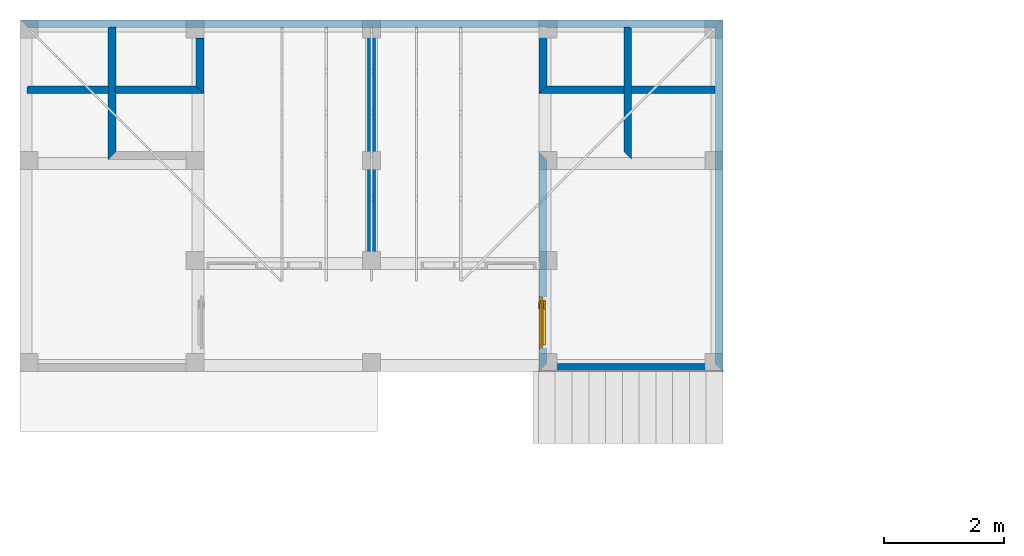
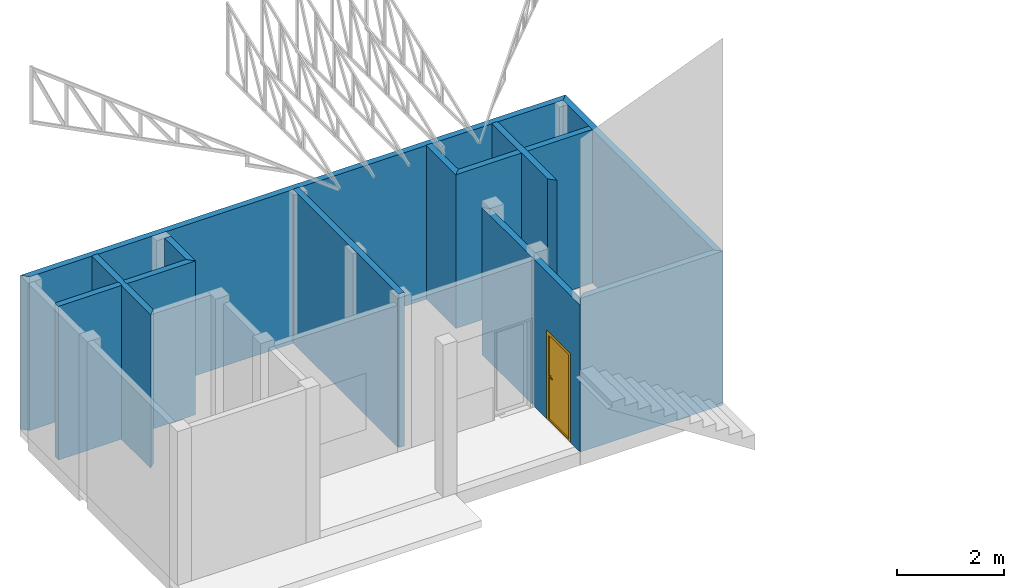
# One storey, part 7 of 10: 12 walls, 1 door, 1 opening.
"""IFC4X3_ADD2 building model written with IfcOpenShell, lengths in millimetres."""

from ifc_helpers import new_model, entity, si_unit, converted_unit, frame, origin_with_axes, origin_2d_with_axis, place, context, subcontext, project, spatial, line, indexed_curve, outline, extrude, shape, source, transform, mapped, material, layer, layer_set, layer_usage, type_object, type_shapes, element, fill, save


model = new_model("IFC4X3_ADD2")

# Units and contexts
model_context = context("Model", 3, precision=1e-05, world=origin_with_axes())
plan_context = context("Plan", 2, precision=1e-05, world=origin_2d_with_axis())
body_context_1 = subcontext(model_context, "Body", "Model", "MODEL_VIEW")
body_context_2 = subcontext(plan_context, "Body", "Plan", "PLAN_VIEW")
ifc_project = project(units=[si_unit("VOLUMEUNIT", "CUBIC_METRE"), si_unit("LENGTHUNIT", "METRE", prefix="MILLI"), converted_unit("PLANEANGLEUNIT", "degree", entity("IfcReal", 0.0174532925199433), si_unit("PLANEANGLEUNIT", "RADIAN"), dimensions=[0, 0, 0, 0, 0, 0, 0]), si_unit("AREAUNIT", "SQUARE_METRE")], contexts=[model_context, plan_context])

# Site, building, storey
site_placement = place(None, origin_with_axes())
site = spatial("IfcSite", under=ifc_project, at=site_placement, Name="My Site")
building_placement = place(site_placement, origin_with_axes())
building = spatial("IfcBuilding", under=site, at=building_placement, Name="My Building")
storey_placement = place(building_placement, origin_with_axes())
storey = spatial("IfcBuildingStorey", under=building, at=storey_placement, Name="Lantai 1")

# Walls
ifc_material_1 = material(Name="plester")
ifc_layer_1 = layer(ifc_material_1, 15.0000009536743, Priority=1)
ifc_material_2 = material(Name="brick", Category="Uncategorised")
ifc_layer_2 = layer(ifc_material_2, 100.0, Priority=4)
ifc_layer_3 = layer(ifc_material_1, 15.0000009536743)
ifc_layer_set = layer_set([ifc_layer_1, ifc_layer_2, ifc_layer_3])
ifc_layer_usage_1 = layer_usage(ifc_layer_set, "AXIS2", "NEGATIVE", 0.0)
wall_type = type_object("IfcWallType", Name="WALL-130", PredefinedType="SOLIDWALL", material=ifc_layer_set)
wall_1_placement = place(storey_placement, frame((-149.999562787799, 5719.99979019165, 0.0), z_axis=(0.0, 0.0, 1.0), x_axis=(1.0, 0.0, 0.0)))
element("IfcWall", 1, at=wall_1_placement, inside=storey, type_object=wall_type, material=ifc_layer_usage_1, Name="Wall", context=body_context_1, shape_type="SweptSolid", body=[
    extrude(outline(indexed_curve([(129.999992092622, -130.000001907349), (114.999992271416, -115.000000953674), (14.9999998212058, -15.0000009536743), (0.0, 0.0), (11739.9997153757, 0.0), (11724.9997137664, -15.0000009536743), (11624.9997093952, -115.000000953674), (11609.9997077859, -130.000001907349), (8785.00047403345, -130.000001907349), (8785.00047295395, -115.000000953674), (8670.00047200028, -115.000000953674), (8670.00047307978, -130.000001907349), (1484.99991670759, -130.000001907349), (1484.99991736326, -115.000000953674), (1599.99991831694, -115.000000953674), (1599.99991766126, -130.000001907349), (10084.9995744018, -130.000001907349), (10084.9995750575, -115.000000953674), (10199.9995760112, -115.000000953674), (10199.9995753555, -130.000001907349), (5820.00011122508, -130.000001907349), (5820.00011235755, -115.000000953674), (5935.00011331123, -115.000000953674), (5935.00011217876, -130.000001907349)], segments=[line(1, 2, 3, 4, 5, 6, 7, 8, 9, 10, 11, 12, 13, 14, 15, 16, 17, 18, 19, 20, 21, 22, 23, 24, 1)])), origin_with_axes(), (0.0, 0.0, 1.0), 3500.00023841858),
])
ifc_layer_usage_2 = layer_usage(ifc_layer_set, "AXIS2", "NEGATIVE", 0.0)
wall_2_placement = place(storey_placement, frame((11590.0001525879, 5719.99979019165, 0.0), z_axis=(0.0, 0.0, 1.0), x_axis=(-4.37113882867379e-08, -0.999999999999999, 0.0)))
element("IfcWall", 2, at=wall_2_placement, inside=storey, type_object=wall_type, material=ifc_layer_usage_2, Name="Wall", context=body_context_1, shape_type="SweptSolid", body=[
    extrude(outline(indexed_curve([(130.000007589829, -130.000001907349), (115.000005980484, -115.000000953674), (15.0000016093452, -15.0000009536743), (0.0, 0.0), (5869.9997961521, 0.0), (5854.99979454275, -15.0000009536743), (5754.99979017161, -115.000000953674), (5739.99978856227, -130.000001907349)], segments=[line(1, 2, 3, 4, 5, 6, 7, 8, 1)])), origin_with_axes(), (0.0, 0.0, 1.0), 3500.00023841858),
])
ifc_layer_usage_3 = layer_usage(ifc_layer_set, "AXIS2", "NEGATIVE", 0.0)
wall_3_placement = place(storey_placement, frame((11589.999896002, -150.000005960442, 0.0), z_axis=(0.0, 0.0, 1.0), x_axis=(-0.999999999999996, 8.74227765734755e-08, 0.0)))
element("IfcWall", 3, at=wall_3_placement, inside=storey, type_object=wall_type, material=ifc_layer_usage_3, Name="Wall", context=body_context_1, shape_type="SweptSolid", body=[
    extrude(outline(indexed_curve([(130.000007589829, -130.000001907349), (115.000005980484, -115.000000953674), (15.0000016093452, -15.0000009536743), (0.0, 0.0), (3069.99943823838, 0.0), (3054.99943676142, -15.0000009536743), (2954.99943327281, -115.000000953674), (2939.99943179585, -130.000001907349)], segments=[line(1, 2, 3, 4, 5, 6, 7, 8, 1)])), origin_with_axes(), (0.0, 0.0, 1.0), 3500.00023841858),
])

# Wall, opening, door
ifc_layer_usage_4 = layer_usage(ifc_layer_set, "AXIS2", "NEGATIVE", 0.0)
wall_4_placement = place(storey_placement, frame((8520.00045776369, -149.999737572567, 0.0), z_axis=(0.0, 0.0, 1.0), x_axis=(7.54979012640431e-08, 0.999999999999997, 0.0)))
wall_4 = element("IfcWall", 4, at=wall_4_placement, inside=storey, type_object=wall_type, material=ifc_layer_usage_4, Name="Wall", context=body_context_1, shape_type="SweptSolid", body=[
    extrude(outline(indexed_curve([(130.000000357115, -130.000001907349), (114.999999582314, -115.000000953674), (15.0000007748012, -15.0000009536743), (0.0, 0.0), (1714.99957163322, 0.0), (1714.99957145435, -15.0000009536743), (1814.99957145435, -15.0000009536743), (1814.99957163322, 0.0), (3669.99971849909, 0.0), (3654.99971867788, -15.0000009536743), (3554.99972622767, -115.000000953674), (3539.99972640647, -130.000001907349)], segments=[line(1, 2, 3, 4, 5, 6, 7, 8, 9, 10, 11, 12, 1)])), origin_with_axes(), (0.0, 0.0, 1.0), 3345.00026702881),
])
shared_shape_1 = source(origin_with_axes(), body_context_1, "Body", "SweptSolid", [
    extrude(outline(indexed_curve([(0.0, 0.0), (850.0, 0.0), (850.0, 2000.0), (0.0, 2000.0)], segments=[line(1, 2, 3, 4, 1)])), frame((0.0, -600.0, 0.0), z_axis=(0.0, -1.0, 0.0), x_axis=(1.0, 0.0, 0.0)), (0.0, 0.0, -1.0), 1200.0),
])
opening_placement = place(wall_4_placement, frame((1239.42648630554, 94.9984532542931, 0.0), z_axis=(0.0, 0.0, 1.0), x_axis=(-0.999999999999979, 2.06632073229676e-07, 0.0)))
opening = element("IfcOpeningElement", 5, at=opening_placement, cuts=wall_4, Name="Opening", PredefinedType="OPENING", context=body_context_1, shape_type="MappedRepresentation", body=[
    mapped(shared_shape_1, transform((0.0, 0.0, 0.0), x_axis=(1.0, 0.0, 0.0), y_axis=(0.0, 1.0, 0.0), z_axis=(0.0, 0.0, 1.0), scale=1.0)),
])
door_type = type_object("IfcDoorType", Name="D01 R", OperationType="SINGLE_SWING_LEFT", PredefinedType="DOOR")
shared_shape_2 = source(origin_with_axes(), body_context_1, "Body", "SweptSolid", [
    extrude(outline(indexed_curve([(0.0, 0.0), (0.0, 2000.0), (850.000023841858, 2000.0), (850.000023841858, 0.0), (825.000023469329, 0.0), (825.000023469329, 1974.99999962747), (25.000000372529, 1974.99999962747), (25.000000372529, 0.0)], segments=[line(1, 2, 3, 4, 5, 6, 7, 8, 1)])), frame((0.0, 25.000000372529, 0.0), z_axis=(0.0, -1.0, 0.0), x_axis=(1.0, 0.0, 0.0)), (0.0, 0.0, -1.0), 25.000000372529),
    extrude(outline(indexed_curve([(0.0, 0.0), (0.0, 2000.0), (850.000023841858, 2000.0), (850.000023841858, 0.0), (800.0000230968, 0.0), (800.0000230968, 1949.99999925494), (50.0000007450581, 1949.99999925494), (50.0000007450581, 0.0)], segments=[line(1, 2, 3, 4, 5, 6, 7, 8, 1)])), frame((0.0, 0.0, 0.0), z_axis=(0.0, -1.0, 0.0), x_axis=(1.0, 0.0, 0.0)), (0.0, 0.0, -1.0), 25.000000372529),
    extrude(outline(indexed_curve([(0.0, 0.0), (800.0000230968, 0.0), (800.0000230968, 35.0000001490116), (0.0, 35.0000001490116)], segments=[line(1, 2, 3, 4, 1)])), frame((25.000000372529, 25.000000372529, 25.000000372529), z_axis=(0.0, 0.0, 1.0), x_axis=(1.0, 0.0, 0.0)), (0.0, 0.0, 1.0), 1949.99999925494),
    extrude(outline(indexed_curve([(0.0, 0.0), (0.0, -40.0), (120.0, -40.0), (120.0, -20.0), (20.0, -20.0), (20.0, 0.0)], segments=[line(1, 2, 3, 4, 5, 6, 1)])), frame((75.000000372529, 25.000000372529, 1015.00000037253), z_axis=(0.0, 0.0, 1.0), x_axis=(1.0, 0.0, 0.0)), (0.0, 0.0, 1.0), 20.0),
    extrude(outline(indexed_curve([(0.0, 0.0), (0.0, 40.0), (120.0, 40.0), (120.0, 20.0), (20.0, 20.0), (20.0, 0.0)], segments=[line(1, 2, 3, 4, 5, 6, 1)])), frame((75.000000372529, 60.0000005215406, 1015.00000037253), z_axis=(0.0, 0.0, 1.0), x_axis=(1.0, 0.0, 0.0)), (0.0, 0.0, 1.0), 20.0),
    extrude(outline(indexed_curve([(0.0, 0.0), (750.000022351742, 0.0), (750.000022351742, 100.000001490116), (0.0, 100.000001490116)], segments=[line(1, 2, 3, 4, 1)])), frame((50.0000007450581, 0.0, 0.0), z_axis=(0.0, 0.0, 1.0), x_axis=(1.0, 0.0, 0.0)), (0.0, 0.0, 1.0), 25.000000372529),
    extrude(outline(indexed_curve([(0.0, 0.0), (0.0, 2025.00000223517), (900.000028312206, 2025.00000223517), (900.000028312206, 0.0), (825.000025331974, 0.0), (825.000025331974, 1949.99999925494), (75.0000029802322, 1949.99999925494), (75.0000029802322, 0.0)], segments=[line(1, 2, 3, 4, 5, 6, 7, 8, 1)])), frame((-25.0000022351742, -4.99999988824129, 0.0), z_axis=(0.0, -1.0, 0.0), x_axis=(1.0, 0.0, 0.0)), (0.0, 0.0, -1.0), 4.99999988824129),
    extrude(outline(indexed_curve([(0.0, 0.0), (0.0, 2025.00000223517), (900.000028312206, 2025.00000223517), (900.000028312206, 0.0), (850.000025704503, 0.0), (850.000025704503, 1974.99999962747), (50.0000026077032, 1974.99999962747), (50.0000026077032, 0.0)], segments=[line(1, 2, 3, 4, 5, 6, 7, 8, 1)])), frame((-25.0000022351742, 50.0000007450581, 0.0), z_axis=(0.0, -1.0, 0.0), x_axis=(1.0, 0.0, 0.0)), (0.0, 0.0, -1.0), 4.99999988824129),
])
shared_shape_3 = source(origin_with_axes(), body_context_2, "Body", "Curve2D", [
    entity("IfcIndexedPolyCurve", entity("IfcCartesianPointList2D", [[0.0, 0.0], [0.0, 50.0000007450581], [25.000000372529, 50.0000007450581], [25.000000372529, 25.000000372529], [50.0000007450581, 25.000000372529], [50.0000007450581, 0.0]]), [entity("IfcLineIndex", [1, 2, 3, 4, 5, 6, 1])]),
    entity("IfcIndexedPolyCurve", entity("IfcCartesianPointList2D", [[850.000023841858, 0.0], [850.000023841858, 50.0000007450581], [825.000023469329, 50.0000007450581], [825.000023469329, 25.000000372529], [800.0000230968, 25.000000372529], [800.0000230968, 0.0]]), [entity("IfcLineIndex", [1, 2, 3, 4, 5, 6, 1])]),
    entity("IfcTrimmedCurve", entity("IfcEllipse", entity("IfcAxis2Placement2D", entity("IfcCartesianPoint", [790.000023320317, 50.0000007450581]), entity("IfcDirection", [1.0, 0.0])), 765.000022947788, 800.0000230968), [entity("IfcCartesianPoint", [790.000023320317, 850.000023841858])], [entity("IfcCartesianPoint", [25.000000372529, 50.0000007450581])], True, "CARTESIAN"),
    entity("IfcIndexedPolyCurve", entity("IfcCartesianPointList2D", [[825.000023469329, 50.0000007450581], [790.000023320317, 50.0000007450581], [790.000023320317, 850.000023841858], [825.000023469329, 850.000023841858]]), [entity("IfcLineIndex", [1, 2, 3, 4, 1])]),
])
type_shapes(door_type, [shared_shape_2, shared_shape_3])
door_placement = place(opening_placement, frame((-2.82125667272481e-05, 99.9984741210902, 0.0), z_axis=(0.0, 0.0, 1.0), x_axis=(1.0, 0.0, 0.0)))
door = element("IfcDoor", 6, at=door_placement, inside=storey, type_object=door_type, Name="Door", OperationType="SINGLE_SWING_RIGHT", OverallHeight=2000.0, OverallWidth=850.000023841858, shapes=[
    shape(body_context_1, "Body", "MappedRepresentation", [mapped(shared_shape_2, transform((0.0, 0.0, 0.0), x_axis=(1.0, 0.0, 0.0), y_axis=(0.0, 1.0, 0.0), z_axis=(0.0, 0.0, 1.0), scale=1.0))]),
    shape(body_context_2, "Body", "MappedRepresentation", [mapped(shared_shape_3, transform((0.0, 0.0, 0.0), x_axis=(1.0, 0.0, 0.0), y_axis=(0.0, 1.0, 0.0), z_axis=(0.0, 0.0, 1.0), scale=1.0))]),
])
fill(opening, door)

# Walls
ifc_layer_usage_5 = layer_usage(ifc_layer_set, "AXIS2", "NEGATIVE", -65.0000009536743)
wall_5_placement = place(storey_placement, frame((1515.00036150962, 5719.99979019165, 0.0), z_axis=(0.0, 0.0, 1.0), x_axis=(-4.37113882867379e-08, -0.999999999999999, 0.0)))
element("IfcWall", 7, at=wall_5_placement, inside=storey, type_object=wall_type, material=ifc_layer_usage_5, Name="Wall", context=body_context_1, shape_type="SweptSolid", body=[
    extrude(outline(indexed_curve([(130.00001043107, -195.000002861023), (130.000009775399, -180.000001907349), (115.000008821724, -180.000001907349), (115.000004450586, -80.0000019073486), (115.000003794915, -65.0000009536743), (1114.9999637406, -65.0000009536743), (1114.99996439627, -80.0000019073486), (1214.99996439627, -80.0000019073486), (1214.9999637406, -65.0000009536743), (2199.99981019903, -65.0000009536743), (2214.99981180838, -80.0000019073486), (2314.99981617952, -180.000001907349), (2329.99981778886, -195.000002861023), (1229.99997037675, -195.000002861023), (1229.99996972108, -180.000001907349), (1114.99996876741, -180.000001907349), (1114.99996942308, -195.000002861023)], segments=[line(1, 2, 3, 4, 5, 6, 7, 8, 9, 10, 11, 12, 13, 14, 15, 16, 17, 1)])), origin_with_axes(), (0.0, 0.0, 1.0), 3500.00023841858),
])
ifc_layer_usage_6 = layer_usage(ifc_layer_set, "AXIS2", "POSITIVE", -65.0)
wall_6_placement = place(storey_placement, frame((-149.999650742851, 4554.99982833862, 0.0), z_axis=(0.0, 0.0, 1.0), x_axis=(1.0, 0.0, 0.0)))
element("IfcWall", 8, at=wall_6_placement, inside=storey, type_object=wall_type, material=ifc_layer_usage_6, Name="Wall", context=body_context_1, shape_type="SweptSolid", body=[
    extrude(outline(indexed_curve([(114.999996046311, -65.0), (114.99999717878, -49.9999990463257), (115.00000472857, 50.0000009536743), (130.000005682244, 50.0000009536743), (130.000006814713, 65.0000019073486), (1469.99996130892, 65.0000019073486), (1469.99996065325, 50.0000009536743), (1484.99996160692, 50.0000009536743), (1484.99995723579, -49.9999990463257), (1484.99995658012, -65.0)], segments=[line(1, 2, 3, 4, 5, 6, 7, 8, 9, 10, 1)])), origin_with_axes(), (0.0, 0.0, 1.0), 3500.00023841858),
])
ifc_layer_usage_7 = layer_usage(ifc_layer_set, "AXIS2", "NEGATIVE", -130.000001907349)
wall_7_placement = place(storey_placement, frame((3050.00007820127, 5419.99967126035, 0.0), z_axis=(0.0, 0.0, 1.0), x_axis=(5.52335052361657e-07, -0.999999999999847, 0.0)))
element("IfcWall", 9, at=wall_7_placement, inside=storey, type_object=wall_type, material=ifc_layer_usage_7, Name="Wall", context=body_context_1, shape_type="SweptSolid", body=[
    extrude(outline(indexed_curve([(0.0, -260.000003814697), (0.0, -130.000001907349), (929.999771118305, -130.000001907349), (914.999761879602, -145.000002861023), (814.999706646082, -245.000002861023), (799.999697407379, -260.000003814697)], segments=[line(1, 2, 3, 4, 5, 6, 1)])), origin_with_axes(), (0.0, 0.0, 1.0), 3500.00023841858),
])
ifc_layer_usage_8 = layer_usage(ifc_layer_set, "AXIS2", "POSITIVE", -65.0)
wall_8_placement = place(storey_placement, frame((1515.00031058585, 4554.99982833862, 0.0), z_axis=(0.0, 0.0, 1.0), x_axis=(1.0, 0.0, 0.0)))
element("IfcWall", 10, at=wall_8_placement, inside=storey, type_object=wall_type, material=ifc_layer_usage_8, Name="Wall", context=body_context_1, shape_type="SweptSolid", body=[
    extrude(outline(indexed_curve([(-65.0000037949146, -65.0), (-65.0000031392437, -49.9999990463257), (-80.0000040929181, -49.9999990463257), (-79.9999997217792, 50.0000009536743), (-64.9999987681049, 50.0000009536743), (-64.999998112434, 65.0000019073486), (1275.00020566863, 65.0000019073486), (1290.00021490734, 50.0000009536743), (1390.00027014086, -49.9999990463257), (1405.00027937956, -65.0)], segments=[line(1, 2, 3, 4, 5, 6, 7, 8, 9, 10, 1)])), origin_with_axes(), (0.0, 0.0, 1.0), 3500.00023841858),
])
ifc_layer_usage_9 = layer_usage(ifc_layer_set, "AXIS2", "POSITIVE", -65.0000009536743)
wall_9_placement = place(storey_placement, frame((8520.00098477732, 4554.99982833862, 0.0), z_axis=(0.0, 0.0, 1.0), x_axis=(1.0, 0.0, 0.0)))
element("IfcWall", 11, at=wall_9_placement, inside=storey, type_object=wall_type, material=ifc_layer_usage_9, Name="Wall", context=body_context_1, shape_type="SweptSolid", body=[
    extrude(outline(indexed_curve([(4.67782360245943e-06, -65.0000009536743), (15.000004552, -50.0), (114.999997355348, 50.0), (129.999997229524, 65.0000009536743), (2939.99853515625, 65.0000009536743), (2939.99853515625, -65.0000009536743)], segments=[line(1, 2, 3, 4, 5, 6, 1)])), origin_with_axes(), (0.0, 0.0, 1.0), 3500.00023841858),
])
ifc_layer_usage_10 = layer_usage(ifc_layer_set, "AXIS2", "POSITIVE", -65.0000009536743)
wall_10_placement = place(storey_placement, frame((10000.0000182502, 5719.99979019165, 0.0), z_axis=(0.0, 0.0, 1.0), x_axis=(-4.37113882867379e-08, -0.999999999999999, 0.0)))
element("IfcWall", 12, at=wall_10_placement, inside=storey, type_object=wall_type, material=ifc_layer_usage_10, Name="Wall", context=body_context_1, shape_type="SweptSolid", body=[
    extrude(outline(indexed_curve([(115.000003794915, -65.0000009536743), (115.000003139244, -50.0), (114.999998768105, 50.0), (129.999999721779, 50.0), (129.999999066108, 65.0000009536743), (2329.99980833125, 65.0000009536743), (2314.99980803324, 50.0), (2214.99981240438, -50.0), (2199.99981210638, -65.0000009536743)], segments=[line(1, 2, 3, 4, 5, 6, 7, 8, 9, 1)])), origin_with_axes(), (0.0, 0.0, 1.0), 3500.00023841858),
])
ifc_layer_usage_11 = layer_usage(ifc_layer_set, "AXIS2", "NEGATIVE", 0.0)
wall_11_placement = place(storey_placement, frame((8520.00098477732, 4554.99982833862, 0.0), z_axis=(0.0, 0.0, 1.0), x_axis=(7.54979012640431e-08, 0.999999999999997, 0.0)))
element("IfcWall", 13, at=wall_11_placement, inside=storey, type_object=wall_type, material=ifc_layer_usage_11, Name="Wall", context=body_context_1, shape_type="SweptSolid", body=[
    extrude(outline(indexed_curve([(65.0000107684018, -130.000001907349), (50.0000086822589, -115.000000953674), (-49.9999988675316, -15.0000009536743), (-65.0000009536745, 0.0), (1049.99996089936, 0.0), (1049.99996203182, -15.0000009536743), (1049.99996958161, -115.000000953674), (1034.99996862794, -115.000000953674), (1034.99996976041, -130.000001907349)], segments=[line(1, 2, 3, 4, 5, 6, 7, 8, 9, 1)])), origin_with_axes(), (0.0, 0.0, 1.0), 3500.00023841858),
])
ifc_layer_usage_12 = layer_usage(ifc_layer_set, "AXIS2", "POSITIVE", -65.0)
wall_12_placement = place(storey_placement, frame((5720.00024437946, 1550.00007789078, 0.0), z_axis=(0.0, 0.0, 1.0), x_axis=(7.54979012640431e-08, 0.999999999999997, 0.0)))
element("IfcWall", 14, at=wall_12_placement, inside=storey, type_object=wall_type, material=ifc_layer_usage_12, Name="Wall", context=body_context_1, shape_type="SweptSolid", body=[
    extrude(outline(indexed_curve([(115.000000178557, -65.0), (115.000000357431, -49.9999990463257), (115.000001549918, 50.0000009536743), (130.000002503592, 50.0000009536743), (130.000002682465, 65.0000019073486), (4039.99970548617, 65.0000019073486), (4039.99970661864, 50.0000009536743), (4054.99970757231, 50.0000009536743), (4054.9997151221, -49.9999990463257), (4054.99971625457, -65.0)], segments=[line(1, 2, 3, 4, 5, 6, 7, 8, 9, 10, 1)])), origin_with_axes(), (0.0, 0.0, 1.0), 3500.00023841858),
])

save(model, "model.ifc")
